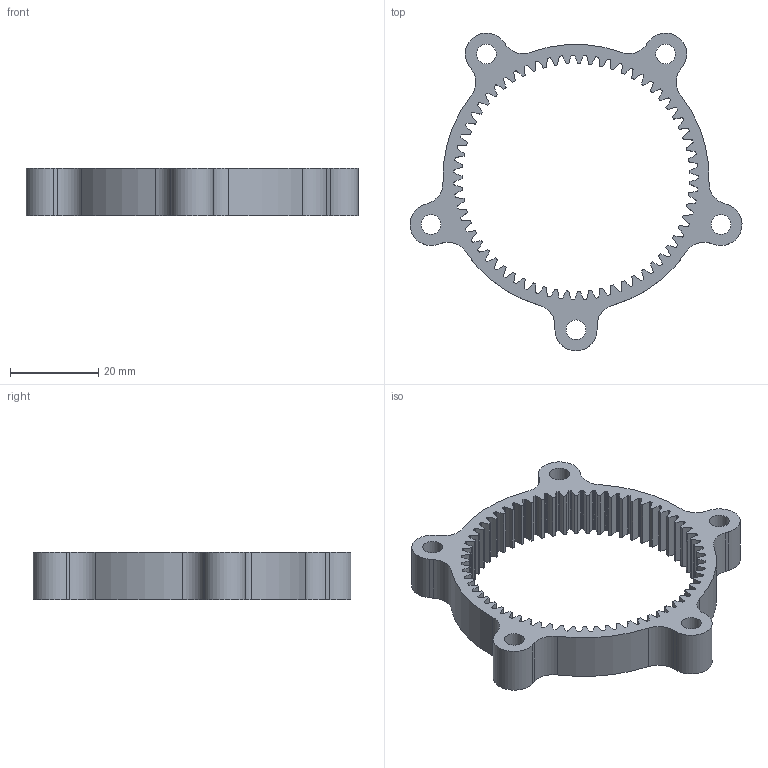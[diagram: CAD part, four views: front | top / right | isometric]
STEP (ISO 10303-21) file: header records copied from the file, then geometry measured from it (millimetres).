
FILE_DESCRIPTION(/* description */ ('STEP AP242 Edition 2','CAx-IF Rec.Pracs.---Representation and Presentation of Product Manufacturing Information (PMI)---4.0---2014-10-13','CAx-IF Rec.Pracs.---3D Tessellated Geometry---0.4---2014-09-14','2;1','CAx-IF Rec.Pracs.---User Defined Attributes---1.5---2016-08-15'),/* implementation_level */ '2;1');
FILE_NAME(/* name */ 'Main - Ring Gear',/* time_stamp */ '2026-09-22T02:10:48Z',/* author */ (''),/* organization */ (''),/* preprocessor_version */ 'ST-DEVELOPER v20',/* originating_system */ 'ONSHAPE BY PTC INC, 1.221',/* authorisation */ ' ');
FILE_SCHEMA (('AP242_MANAGED_MODEL_BASED_3D_ENGINEERING_MIM_LF { 1 0 10303 442 3 1 4 }'));
Length unit declared in the file: metre
Products named in the file (1): Ring Gear
Bounding box: 75.23 x 72.01 x 10.72 mm (x, y, z)
Volume: 10094.9 mm3; surface area: 8898.7 mm2
Topology: 1 solids, 1 shells, 415 faces, 1244 edges, 831 vertices
Faces by surface type: cylinder 214, bspline 126, plane 75
Full cylindrical faces by diameter (mm): 4.5 x5
Entity records: 18386 total; most frequent: CARTESIAN_POINT 7642, ORIENTED_EDGE 2468, DIRECTION 1990, EDGE_CURVE 1234, VERTEX_POINT 826, AXIS2_PLACEMENT_3D 718, LINE 554, VECTOR 554
